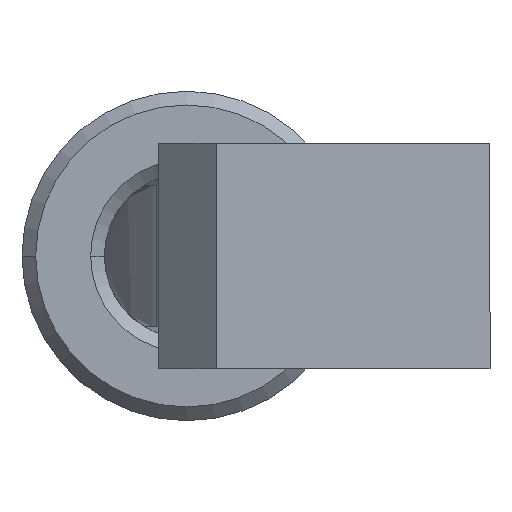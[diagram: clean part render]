
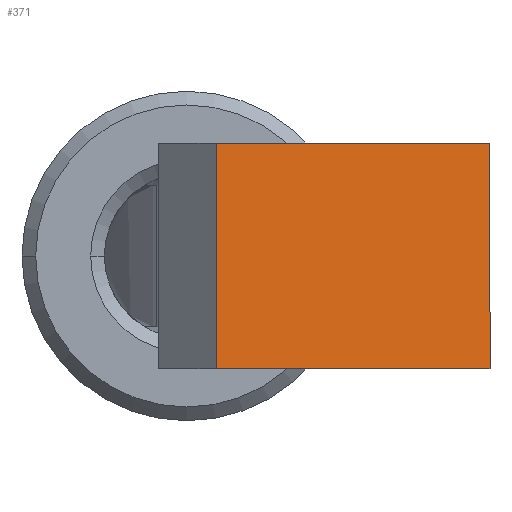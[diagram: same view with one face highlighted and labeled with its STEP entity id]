
A CAD part, left-side view. The second image highlights one B-rep face of the part: STEP entity #371.
In plain terms, the highlighted planar face has unit normal (-0.998, -0.07, 0).
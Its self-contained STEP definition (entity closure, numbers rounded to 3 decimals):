
#60 = CARTESIAN_POINT ( 'NONE',  ( -173.802, -11.046, -4.1 ) ) ;
#108 = AXIS2_PLACEMENT_3D ( 'NONE', #2374, #1067, #1825 ) ;
#185 = LINE ( 'NONE', #966, #2685 ) ;
#299 = PLANE ( 'NONE',  #108 ) ;
#355 = CARTESIAN_POINT ( 'NONE',  ( -173.802, -11.046, 4.1 ) ) ;
#371 = ADVANCED_FACE ( 'NONE', ( #3091 ), #299, .T. ) ;
#544 = LINE ( 'NONE', #711, #1872 ) ;
#692 = EDGE_CURVE ( 'NONE', #934, #1981, #185, .T. ) ;
#711 = CARTESIAN_POINT ( 'NONE',  ( -161.633, -185.083, -4.1 ) ) ;
#771 = VERTEX_POINT ( 'NONE', #1000 ) ;
#934 = VERTEX_POINT ( 'NONE', #60 ) ;
#966 = CARTESIAN_POINT ( 'NONE',  ( -173.802, -11.046, -15. ) ) ;
#1000 = CARTESIAN_POINT ( 'NONE',  ( -174.5, -1.07, 4.1 ) ) ;
#1019 = ORIENTED_EDGE ( 'NONE', *, *, #1826, .T. ) ;
#1055 = EDGE_LOOP ( 'NONE', ( #1590, #1138, #1019, #2027 ) ) ;
#1067 = DIRECTION ( 'NONE',  ( -0.998, -0.07, 0. ) ) ;
#1069 = LINE ( 'NONE', #2880, #1438 ) ;
#1138 = ORIENTED_EDGE ( 'NONE', *, *, #692, .T. ) ;
#1228 = DIRECTION ( 'NONE',  ( 0., 0., 1. ) ) ;
#1438 = VECTOR ( 'NONE', #2888, 1000. ) ;
#1445 = CARTESIAN_POINT ( 'NONE',  ( -174.5, -1.07, -4.1 ) ) ;
#1590 = ORIENTED_EDGE ( 'NONE', *, *, #2779, .F. ) ;
#1739 = DIRECTION ( 'NONE',  ( -0.07, 0.998, 0. ) ) ;
#1825 = DIRECTION ( 'NONE',  ( 0.07, -0.998, 0. ) ) ;
#1826 = EDGE_CURVE ( 'NONE', #1981, #771, #3278, .T. ) ;
#1869 = VECTOR ( 'NONE', #2115, 1000. ) ;
#1872 = VECTOR ( 'NONE', #1739, 1000. ) ;
#1981 = VERTEX_POINT ( 'NONE', #355 ) ;
#2027 = ORIENTED_EDGE ( 'NONE', *, *, #2254, .F. ) ;
#2115 = DIRECTION ( 'NONE',  ( -0.07, 0.998, 0. ) ) ;
#2254 = EDGE_CURVE ( 'NONE', #3173, #771, #1069, .T. ) ;
#2374 = CARTESIAN_POINT ( 'NONE',  ( -161.633, -185.083, -15. ) ) ;
#2685 = VECTOR ( 'NONE', #1228, 1000. ) ;
#2779 = EDGE_CURVE ( 'NONE', #934, #3173, #544, .T. ) ;
#2880 = CARTESIAN_POINT ( 'NONE',  ( -174.5, -1.07, -15. ) ) ;
#2888 = DIRECTION ( 'NONE',  ( 0., 0., 1. ) ) ;
#3091 = FACE_OUTER_BOUND ( 'NONE', #1055, .T. ) ;
#3160 = CARTESIAN_POINT ( 'NONE',  ( -161.633, -185.083, 4.1 ) ) ;
#3173 = VERTEX_POINT ( 'NONE', #1445 ) ;
#3278 = LINE ( 'NONE', #3160, #1869 ) ;
